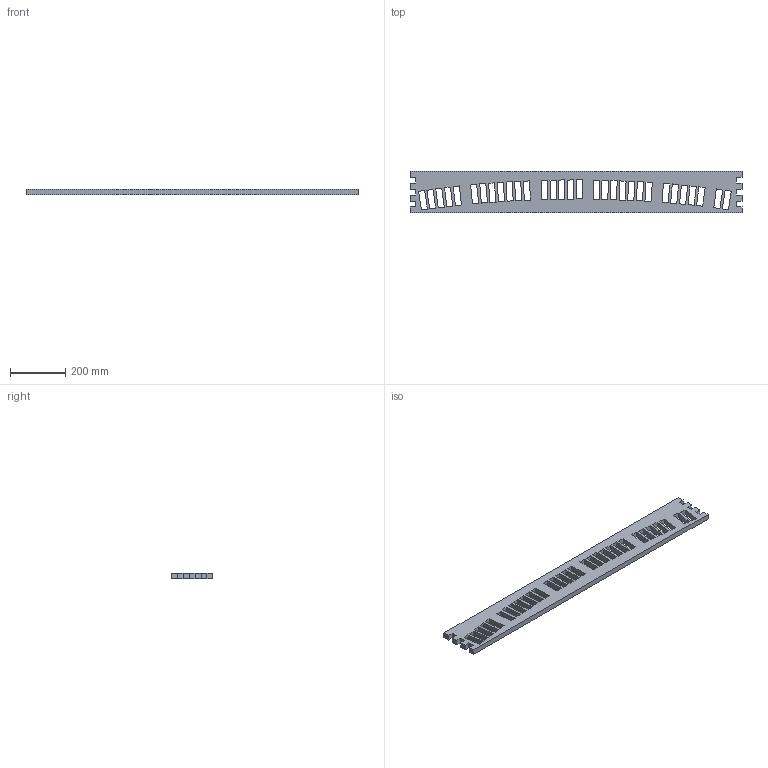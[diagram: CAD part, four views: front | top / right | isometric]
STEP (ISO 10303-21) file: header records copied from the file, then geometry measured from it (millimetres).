
FILE_DESCRIPTION(/* description */ (''),/* implementation_level */ '2;1');
FILE_NAME(/* name */ 'plancheAV',/* time_stamp */ '2019-11-27T09:52:23+01:00',/* author */ (''),/* organization */ (''),/* preprocessor_version */ 'ST-DEVELOPER v8',/* originating_system */ '',/* authorisation */ '');
FILE_SCHEMA (('CONFIG_CONTROL_DESIGN'));
Length unit declared in the file: millimetre
Products named in the file (1): 1
Bounding box: 1200 x 150 x 20 mm (x, y, z)
Volume: 2597180 mm3; surface area: 431645.8 mm2
Topology: 1 solids, 1 shells, 154 faces, 608 edges, 304 vertices
Faces by surface type: bspline 154
Entity records: 5398 total; most frequent: CARTESIAN_POINT 1984, ORIENTED_EDGE 912, EDGE_CURVE 456, B_SPLINE_CURVE_WITH_KNOTS 456, VERTEX_POINT 304, EDGE_LOOP 216, ADVANCED_FACE 154, FACE_OUTER_BOUND 154
